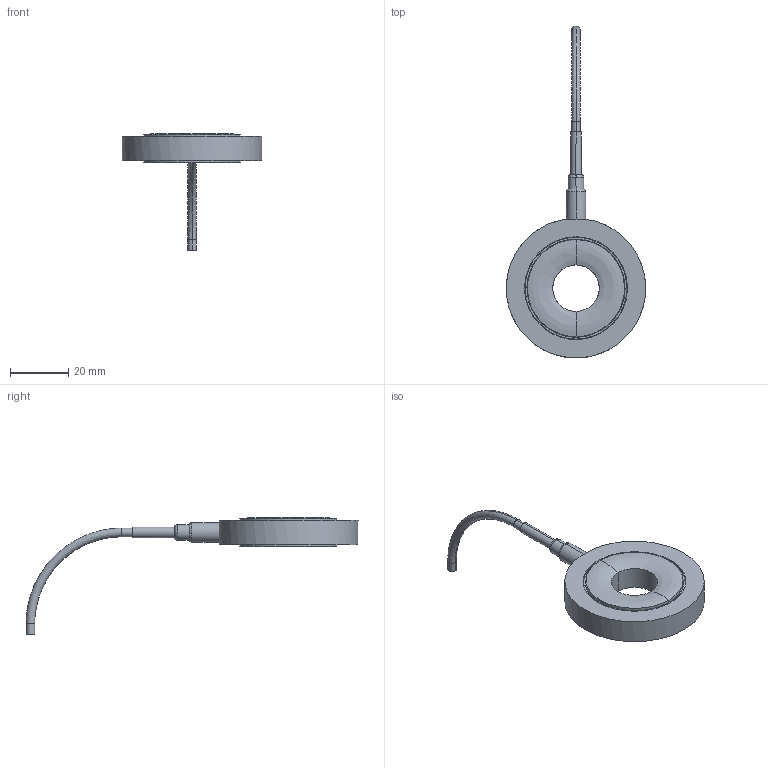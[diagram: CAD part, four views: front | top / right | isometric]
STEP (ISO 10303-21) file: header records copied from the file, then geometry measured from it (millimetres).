
FILE_DESCRIPTION (( 'STEP AP214' ), '1' );
FILE_NAME ('Soemer-SM71-M16-200KN.STEP', '2023-09-21T10:55:51', ( '' ), ( '' ), 'SwSTEP 2.0', 'SolidWorks 2019', '' );
FILE_SCHEMA (( 'AUTOMOTIVE_DESIGN' ));
Length unit declared in the file: millimetre
Products named in the file (2): Soemer-SM71-M16-200KN
Bounding box: 48 x 114.27 x 40 mm (x, y, z)
Volume: 15097.7 mm3; surface area: 6264.7 mm2
Topology: 1 solids, 1 shells, 49 faces, 100 edges, 56 vertices
Faces by surface type: bspline 39, plane 10
Entity records: 3457 total; most frequent: CARTESIAN_POINT 2654, ORIENTED_EDGE 200, EDGE_CURVE 100, B_SPLINE_CURVE_WITH_KNOTS 72, VERTEX_POINT 56, EDGE_LOOP 54, DIRECTION 52, FACE_OUTER_BOUND 49
